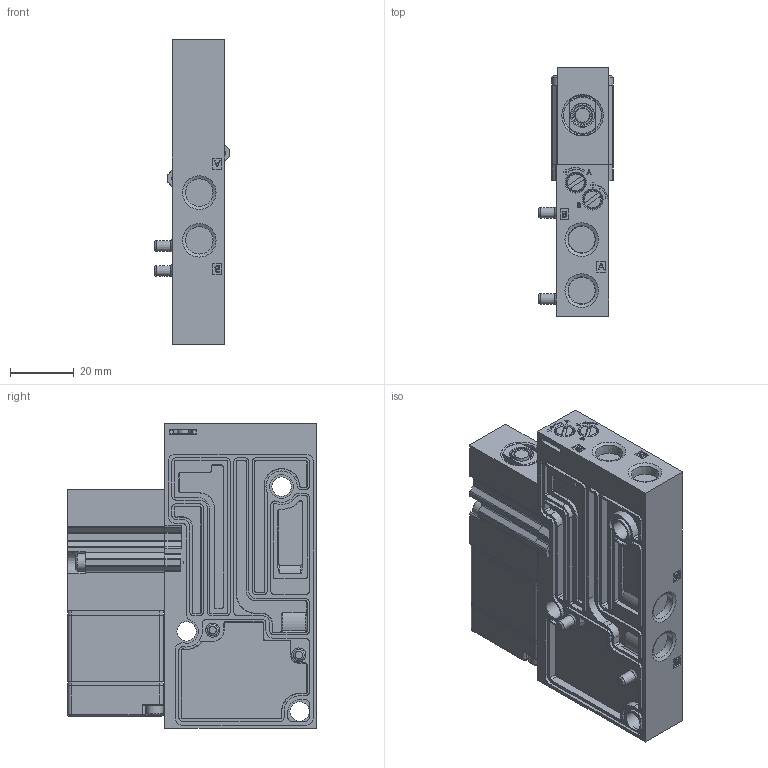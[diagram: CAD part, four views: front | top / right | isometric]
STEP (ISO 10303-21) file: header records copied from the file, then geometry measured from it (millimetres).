
FILE_DESCRIPTION (( 'STEP AP214' ), '1' );
FILE_NAME ('46 SGL FC.STEP', '2019-09-20T18:27:31', ( 'user' ), ( '' ), 'SwSTEP 2.0', 'SolidWorks 2014', '' );
FILE_SCHEMA (( 'AUTOMOTIVE_DESIGN' ));
Length unit declared in the file: millimetre
Products named in the file (4): 46-OPERATOR-JXXP-1FA; 46-BODY-L00; 46-BASE-0MA-1D; 46 SGL FC
Assembly tree (3 placements, depth 2):
  46 SGL FC
    46-BASE-0MA-1D
    46-BODY-L00
    46-OPERATOR-JXXP-1FA
Bounding box: 23.4 x 78 x 95.54 mm (x, y, z)
Volume: 86174.9 mm3; surface area: 37698.4 mm2
Topology: 13 solids, 14 shells, 1692 faces, 4342 edges, 2792 vertices
Faces by surface type: plane 824, cylinder 566, bspline 153, cone 77, torus 62, sphere 10
Full cylindrical faces by diameter (mm): 0.3 x1, 1.5 x3, 2 x2, 2.5 x3, 2.82 x2, 3 x2, 3.1 x2, 3.15 x4, 3.5 x3, 3.6 x1, 4.15 x2, 4.5 x2, 5.3 x2, 5.5 x4, 5.53 x1, 5.75 x6, 6 x2, 6.097 x3, 6.8 x1, 7.3 x2, 7.4 x1, 7.45 x1, 7.8 x1, 8.58 x2, 10 x1, 10.2 x1, 11.88 x2, 12.4 x1, 12.7 x1
Entity records: 74400 total; most frequent: CARTESIAN_POINT 16167, ORIENTED_EDGE 8328, DIRECTION 7784, EDGE_CURVE 4164, VERTEX_POINT 2760, AXIS2_PLACEMENT_3D 2654, VECTOR 2476, LINE 2476
